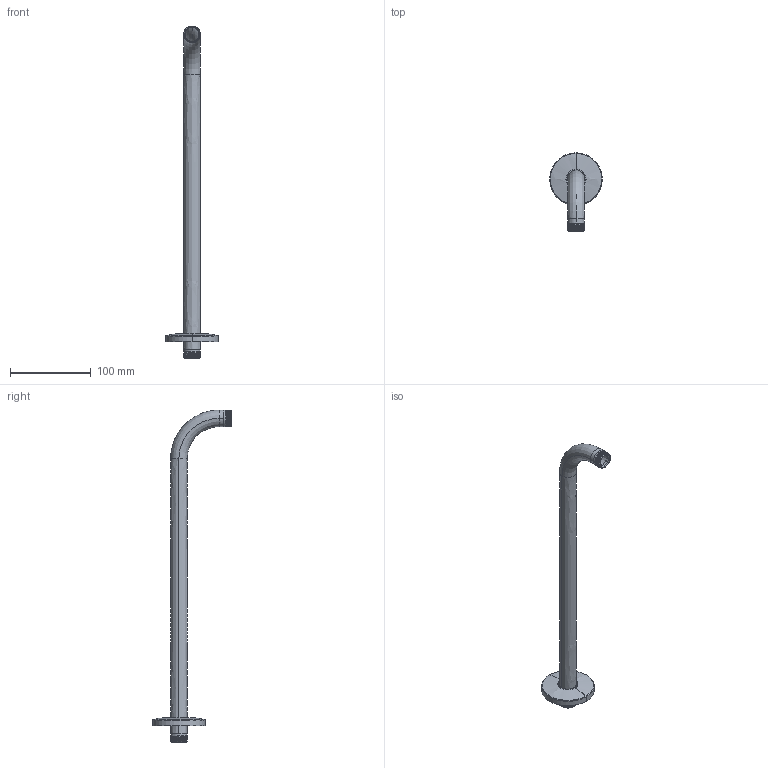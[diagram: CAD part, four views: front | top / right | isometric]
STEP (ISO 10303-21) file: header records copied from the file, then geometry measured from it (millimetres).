
FILE_DESCRIPTION((''),'2;1');
FILE_NAME('76607--00_ASM','2022-06-14T08:07:26',('sosm1'),(''),'CREO PARAMETRIC BY PTC INC, 2018190','CREO PARAMETRIC BY PTC INC, 2018190','');
FILE_SCHEMA(('CONFIG_CONTROL_DESIGN'));
Length unit declared in the file: millimetre
Products named in the file (3): 46113--; 46112--; 76607--00_ASM
Assembly tree (2 placements, depth 2):
  76607--00_ASM
    46113--
    46112--
Bounding box: 65 x 97.52 x 410.28 mm (x, y, z)
Volume: 45788.6 mm3; surface area: 62852.4 mm2
Topology: 2 solids, 2 shells, 86 faces, 202 edges, 122 vertices
Faces by surface type: bspline 28, cylinder 26, plane 24, cone 4, torus 4
Entity records: 5313 total; most frequent: CARTESIAN_POINT 3496, ORIENTED_EDGE 404, DIRECTION 288, EDGE_CURVE 202, VERTEX_POINT 122, AXIS2_PLACEMENT_3D 121, B_SPLINE_CURVE_WITH_KNOTS 98, EDGE_LOOP 92
